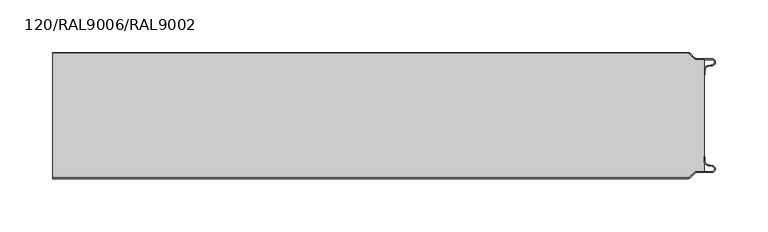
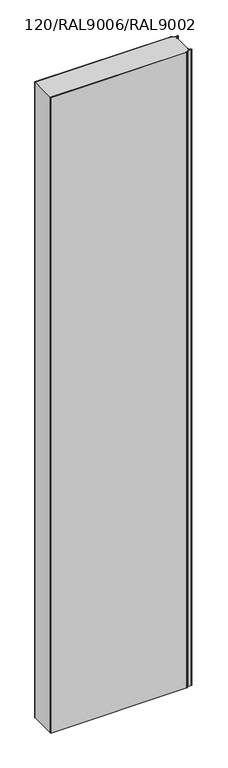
"""IFC4 building model written with IfcOpenShell, lengths in millimetres: plate geometry, TR_C_V_FTV_Panel_cut_TONGUE : 120/RAL9006/RAL9002."""

from ifc_helpers import new_model, si_unit, point, frame_2d, origin, origin_with_axes, place, context, project, spatial, polyline, circle_curve, trimmed, segment, composite_curve, outline, extrude, source, transform, mapped, element, save


def plate_120_ral9006_ral9002_b2f680cc(model_context):
    return source(origin(), model_context, "Body", "SweptSolid", [
        extrude(outline(composite_curve([segment(polyline([(309.800001, -103.1130328), (309.800001, -99.0), (310.600001, -99.0), (310.600001, -103.1130328)]), True, "CONTINUOUS"), segment(trimmed(circle_curve(frame_2d((314.350001, -103.1130328)), 3.75), [point((310.600001, -103.1130328))], [point((313.6988203, -106.8060618))], True, "CARTESIAN"), True, "CONTINUOUS"), segment(polyline([(313.6988203, -106.8060618), (317.9143576, -107.5493748)]), True, "CONTINUOUS"), segment(trimmed(circle_curve(frame_2d((317.350001, -110.75)), 3.25), [point((317.9143576, -107.5493748))], [point((317.350001, -114.0))], False, "CARTESIAN"), True, "CONTINUOUS"), segment(polyline([(317.350001, -114.0), (302.600001, -114.0)]), True, "CONTINUOUS"), segment(trimmed(circle_curve(frame_2d((302.600001, -116.5)), 2.5), [point((302.600001, -114.0))], [point((300.8322341, -114.732233))], True, "CARTESIAN"), True, "CONTINUOUS"), segment(polyline([(300.8322341, -114.732233), (296.4431468, -119.1213203)]), True, "CONTINUOUS"), segment(trimmed(circle_curve(frame_2d((294.3218264, -117.0)), 3.0), [point((296.4431468, -119.1213203))], [point((294.3218264, -120.0))], False, "CARTESIAN"), True, "CONTINUOUS"), segment(polyline([(294.3218264, -120.0), (-309.9999998, -120.0), (-309.9999998, -119.2), (294.3218264, -119.2)]), True, "CONTINUOUS"), segment(trimmed(circle_curve(frame_2d((294.3218264, -117.0)), 2.2), [point((294.3218264, -119.2))], [point((295.8774613, -118.5556349))], True, "CARTESIAN"), True, "CONTINUOUS"), segment(polyline([(295.8774613, -118.5556349), (300.2665486, -114.1665476)]), True, "CONTINUOUS"), segment(trimmed(circle_curve(frame_2d((302.600001, -116.5)), 3.3), [point((300.2665486, -114.1665476))], [point((302.600001, -113.2))], False, "CARTESIAN"), True, "CONTINUOUS"), segment(polyline([(302.600001, -113.2), (317.350001, -113.2)]), True, "CONTINUOUS"), segment(trimmed(circle_curve(frame_2d((317.350001, -110.75)), 2.45), [point((317.350001, -113.2))], [point((317.775439, -108.337221))], True, "CARTESIAN"), True, "CONTINUOUS"), segment(polyline([(317.775439, -108.337221), (313.5599018, -107.5939081)]), True, "CONTINUOUS"), segment(trimmed(circle_curve(frame_2d((314.350001, -103.1130328)), 4.55), [point((313.5599018, -107.5939081))], [point((309.800001, -103.1130328))], False, "CARTESIAN"), True, "CONTINUOUS")], self_intersect=False)), origin_with_axes(), (0.0, 0.0, 1.0), 2980.0),
        extrude(outline(composite_curve([segment(trimmed(circle_curve(frame_2d((294.3218264, -3.0)), 2.2), [point((294.3218264, -0.8))], [point((295.8774613, -1.4443651))], False, "CARTESIAN"), True, "CONTINUOUS"), segment(polyline([(295.8774613, -1.4443651), (300.2665486, -5.8334524)]), True, "CONTINUOUS"), segment(trimmed(circle_curve(frame_2d((302.600001, -3.5)), 3.3), [point((300.2665486, -5.8334524))], [point((302.600001, -6.8))], True, "CARTESIAN"), True, "CONTINUOUS"), segment(polyline([(302.600001, -6.8), (309.9999998, -6.8), (309.9999998, -113.2), (302.600001, -113.2)]), True, "CONTINUOUS"), segment(trimmed(circle_curve(frame_2d((302.600001, -116.5)), 3.3), [point((302.600001, -113.2))], [point((300.2665486, -114.1665476))], True, "CARTESIAN"), True, "CONTINUOUS"), segment(polyline([(300.2665486, -114.1665476), (295.8774613, -118.5556349)]), True, "CONTINUOUS"), segment(trimmed(circle_curve(frame_2d((294.3218264, -117.0)), 2.2), [point((295.8774613, -118.5556349))], [point((294.3218264, -119.2))], False, "CARTESIAN"), True, "CONTINUOUS"), segment(polyline([(294.3218264, -119.2), (-309.9999998, -119.2), (-309.9999998, -0.8), (294.3218264, -0.8)]), True, "CONTINUOUS")], self_intersect=False)), origin_with_axes(), (0.0, 0.0, 1.0), 2980.0),
        extrude(outline(composite_curve([segment(trimmed(circle_curve(frame_2d((314.350001, -16.8869672)), 4.55), [point((309.800001, -16.8869672))], [point((313.5599018, -12.4060919))], False, "CARTESIAN"), True, "CONTINUOUS"), segment(polyline([(313.5599018, -12.4060919), (317.775439, -11.662779)]), True, "CONTINUOUS"), segment(trimmed(circle_curve(frame_2d((317.350001, -9.25)), 2.45), [point((317.775439, -11.662779))], [point((317.350001, -6.8))], True, "CARTESIAN"), True, "CONTINUOUS"), segment(polyline([(317.350001, -6.8), (302.600001, -6.8)]), True, "CONTINUOUS"), segment(trimmed(circle_curve(frame_2d((302.600001, -3.5)), 3.3), [point((302.600001, -6.8))], [point((300.2665486, -5.8334524))], False, "CARTESIAN"), True, "CONTINUOUS"), segment(polyline([(300.2665486, -5.8334524), (295.8774613, -1.4443651)]), True, "CONTINUOUS"), segment(trimmed(circle_curve(frame_2d((294.3218264, -3.0)), 2.2), [point((295.8774613, -1.4443651))], [point((294.3218264, -0.8))], True, "CARTESIAN"), True, "CONTINUOUS"), segment(polyline([(294.3218264, -0.8), (-309.9999998, -0.8), (-309.9999998, 0.0), (294.3218264, 0.0)]), True, "CONTINUOUS"), segment(trimmed(circle_curve(frame_2d((294.3218264, -3.0)), 3.0), [point((294.3218264, 0.0))], [point((296.4431468, -0.8786797))], False, "CARTESIAN"), True, "CONTINUOUS"), segment(polyline([(296.4431468, -0.8786797), (300.8322341, -5.267767)]), True, "CONTINUOUS"), segment(trimmed(circle_curve(frame_2d((302.600001, -3.5)), 2.5), [point((300.8322341, -5.267767))], [point((302.600001, -6.0))], True, "CARTESIAN"), True, "CONTINUOUS"), segment(polyline([(302.600001, -6.0), (317.350001, -6.0)]), True, "CONTINUOUS"), segment(trimmed(circle_curve(frame_2d((317.350001, -9.25)), 3.25), [point((317.350001, -6.0))], [point((317.9143576, -12.4506252))], False, "CARTESIAN"), True, "CONTINUOUS"), segment(polyline([(317.9143576, -12.4506252), (313.6988203, -13.1939382)]), True, "CONTINUOUS"), segment(trimmed(circle_curve(frame_2d((314.350001, -16.8869672)), 3.75), [point((313.6988203, -13.1939382))], [point((310.600001, -16.8869672))], True, "CARTESIAN"), True, "CONTINUOUS"), segment(polyline([(310.600001, -16.8869672), (310.600001, -21.0), (309.800001, -21.0), (309.800001, -16.8869672)]), True, "CONTINUOUS")], self_intersect=False)), origin_with_axes(), (0.0, 0.0, 1.0), 2980.0),
    ])


if __name__ == "__main__":
    model = new_model("IFC4")
    model_context = context("Model", 3, world=origin())
    ifc_project = project(units=[si_unit("LENGTHUNIT", "METRE", prefix="MILLI")], contexts=[model_context])
    site = spatial("IfcSite", under=ifc_project)
    building = spatial("IfcBuilding", under=site)
    placement = place(None, origin())
    plate_120_ral9006_ral9002_shape = plate_120_ral9006_ral9002_b2f680cc(model_context)
    element("IfcPlate", 1, ObjectType="TR_C_V_FTV_Panel_cut_TONGUE : 120/RAL9006/RAL9002", at=placement, inside=building, context=model_context, shape_type="MappedRepresentation", body=[
        mapped(plate_120_ral9006_ral9002_shape, transform((0.0, 0.0, 0.0), x_axis=(1.0, 0.0, 0.0), y_axis=(0.0, 1.0, 0.0), z_axis=(0.0, 0.0, 1.0))),
    ])
    save(model, "model.ifc")
